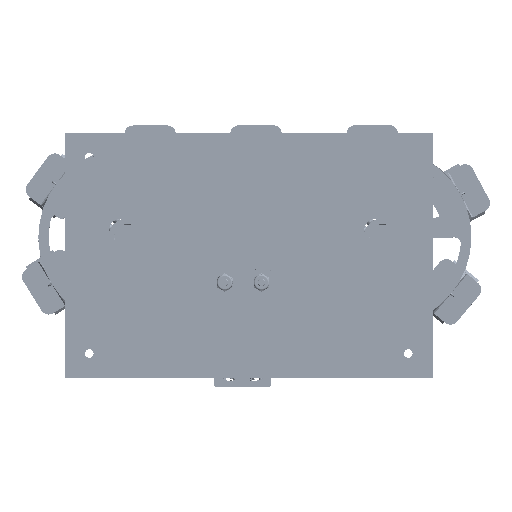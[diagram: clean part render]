
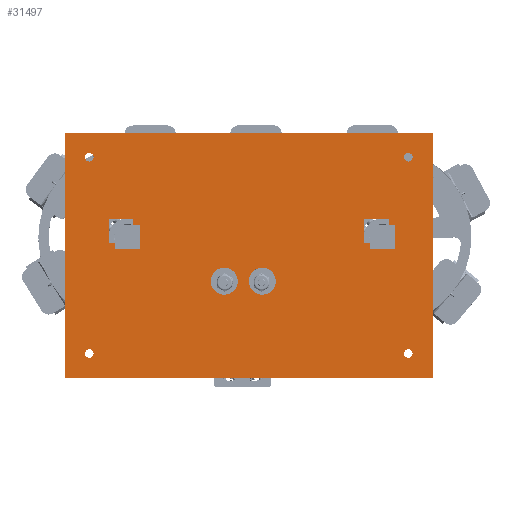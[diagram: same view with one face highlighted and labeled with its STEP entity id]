
A CAD part, top view. The second image highlights one B-rep face of the part: STEP entity #31497.
In plain terms, the highlighted planar face has unit normal (0, 0, 1).
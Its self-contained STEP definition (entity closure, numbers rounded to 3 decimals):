
#3368=FACE_BOUND('',#6053,.T.);
#3369=FACE_BOUND('',#6054,.T.);
#3370=FACE_BOUND('',#6055,.T.);
#3371=FACE_BOUND('',#6056,.T.);
#3372=FACE_BOUND('',#6057,.T.);
#3373=FACE_BOUND('',#6058,.T.);
#3374=FACE_BOUND('',#6059,.T.);
#3375=FACE_BOUND('',#6060,.T.);
#3631=PLANE('',#33622);
#4239=FACE_OUTER_BOUND('',#6052,.T.);
#6052=EDGE_LOOP('',(#21530,#21531,#21532,#21533));
#6053=EDGE_LOOP('',(#21534));
#6054=EDGE_LOOP('',(#21535));
#6055=EDGE_LOOP('',(#21536));
#6056=EDGE_LOOP('',(#21537));
#6057=EDGE_LOOP('',(#21538));
#6058=EDGE_LOOP('',(#21539));
#6059=EDGE_LOOP('',(#21540,#21541,#21542,#21543));
#6060=EDGE_LOOP('',(#21544,#21545,#21546,#21547));
#8061=LINE('',#41260,#10441);
#8064=LINE('',#41265,#10444);
#8066=LINE('',#41269,#10446);
#8068=LINE('',#41272,#10448);
#8069=LINE('',#41276,#10449);
#8072=LINE('',#41281,#10452);
#8074=LINE('',#41285,#10454);
#8076=LINE('',#41288,#10456);
#8077=LINE('',#41292,#10457);
#8081=LINE('',#41300,#10461);
#8084=LINE('',#41306,#10464);
#8087=LINE('',#41311,#10467);
#10441=VECTOR('',#35426,10.);
#10444=VECTOR('',#35431,10.);
#10446=VECTOR('',#35435,10.);
#10448=VECTOR('',#35439,10.);
#10449=VECTOR('',#35442,10.);
#10452=VECTOR('',#35447,10.);
#10454=VECTOR('',#35451,10.);
#10456=VECTOR('',#35455,10.);
#10457=VECTOR('',#35458,10.);
#10461=VECTOR('',#35464,10.);
#10464=VECTOR('',#35469,10.);
#10467=VECTOR('',#35474,10.);
#12804=CIRCLE('',#33584,11.);
#12806=CIRCLE('',#33587,11.);
#12809=CIRCLE('',#33592,3.5);
#12812=CIRCLE('',#33597,3.5);
#12815=CIRCLE('',#33602,3.5);
#12818=CIRCLE('',#33607,3.5);
#13333=VERTEX_POINT('',#41206);
#13335=VERTEX_POINT('',#41212);
#13338=VERTEX_POINT('',#41222);
#13341=VERTEX_POINT('',#41232);
#13344=VERTEX_POINT('',#41242);
#13347=VERTEX_POINT('',#41252);
#13348=VERTEX_POINT('',#41258);
#13349=VERTEX_POINT('',#41259);
#13350=VERTEX_POINT('',#41264);
#13351=VERTEX_POINT('',#41268);
#13352=VERTEX_POINT('',#41274);
#13353=VERTEX_POINT('',#41275);
#13354=VERTEX_POINT('',#41280);
#13355=VERTEX_POINT('',#41284);
#13356=VERTEX_POINT('',#41290);
#13357=VERTEX_POINT('',#41291);
#13360=VERTEX_POINT('',#41299);
#13362=VERTEX_POINT('',#41305);
#16576=EDGE_CURVE('',#13333,#13333,#12804,.T.);
#16579=EDGE_CURVE('',#13335,#13335,#12806,.T.);
#16584=EDGE_CURVE('',#13338,#13338,#12809,.T.);
#16589=EDGE_CURVE('',#13341,#13341,#12812,.T.);
#16594=EDGE_CURVE('',#13344,#13344,#12815,.T.);
#16599=EDGE_CURVE('',#13347,#13347,#12818,.T.);
#16600=EDGE_CURVE('',#13348,#13349,#8061,.T.);
#16603=EDGE_CURVE('',#13350,#13348,#8064,.T.);
#16605=EDGE_CURVE('',#13351,#13350,#8066,.T.);
#16607=EDGE_CURVE('',#13349,#13351,#8068,.T.);
#16608=EDGE_CURVE('',#13352,#13353,#8069,.T.);
#16611=EDGE_CURVE('',#13354,#13352,#8072,.T.);
#16613=EDGE_CURVE('',#13355,#13354,#8074,.T.);
#16615=EDGE_CURVE('',#13353,#13355,#8076,.T.);
#16616=EDGE_CURVE('',#13356,#13357,#8077,.T.);
#16620=EDGE_CURVE('',#13360,#13356,#8081,.T.);
#16623=EDGE_CURVE('',#13362,#13360,#8084,.T.);
#16626=EDGE_CURVE('',#13357,#13362,#8087,.T.);
#21530=ORIENTED_EDGE('',*,*,#16626,.F.);
#21531=ORIENTED_EDGE('',*,*,#16616,.F.);
#21532=ORIENTED_EDGE('',*,*,#16620,.F.);
#21533=ORIENTED_EDGE('',*,*,#16623,.F.);
#21534=ORIENTED_EDGE('',*,*,#16576,.T.);
#21535=ORIENTED_EDGE('',*,*,#16579,.T.);
#21536=ORIENTED_EDGE('',*,*,#16584,.T.);
#21537=ORIENTED_EDGE('',*,*,#16589,.T.);
#21538=ORIENTED_EDGE('',*,*,#16594,.T.);
#21539=ORIENTED_EDGE('',*,*,#16599,.T.);
#21540=ORIENTED_EDGE('',*,*,#16600,.T.);
#21541=ORIENTED_EDGE('',*,*,#16607,.T.);
#21542=ORIENTED_EDGE('',*,*,#16605,.T.);
#21543=ORIENTED_EDGE('',*,*,#16603,.T.);
#21544=ORIENTED_EDGE('',*,*,#16608,.T.);
#21545=ORIENTED_EDGE('',*,*,#16615,.T.);
#21546=ORIENTED_EDGE('',*,*,#16613,.T.);
#21547=ORIENTED_EDGE('',*,*,#16611,.T.);
#31497=ADVANCED_FACE('',(#4239,#3368,#3369,#3370,#3371,#3372,#3373,#3374,
#3375),#3631,.T.);
#33584=AXIS2_PLACEMENT_3D('',#41208,#35363,#35364);
#33587=AXIS2_PLACEMENT_3D('',#41214,#35370,#35371);
#33592=AXIS2_PLACEMENT_3D('',#41224,#35382,#35383);
#33597=AXIS2_PLACEMENT_3D('',#41234,#35394,#35395);
#33602=AXIS2_PLACEMENT_3D('',#41244,#35406,#35407);
#33607=AXIS2_PLACEMENT_3D('',#41254,#35418,#35419);
#33622=AXIS2_PLACEMENT_3D('',#41313,#35476,#35477);
#35363=DIRECTION('center_axis',(0.,0.,-1.));
#35364=DIRECTION('ref_axis',(-1.,0.,0.));
#35370=DIRECTION('center_axis',(0.,0.,-1.));
#35371=DIRECTION('ref_axis',(-1.,0.,0.));
#35382=DIRECTION('center_axis',(0.,0.,-1.));
#35383=DIRECTION('ref_axis',(-1.,0.,0.));
#35394=DIRECTION('center_axis',(0.,0.,-1.));
#35395=DIRECTION('ref_axis',(-1.,0.,0.));
#35406=DIRECTION('center_axis',(0.,0.,-1.));
#35407=DIRECTION('ref_axis',(-1.,0.,0.));
#35418=DIRECTION('center_axis',(0.,0.,-1.));
#35419=DIRECTION('ref_axis',(-1.,0.,0.));
#35426=DIRECTION('',(1.,0.,0.));
#35431=DIRECTION('',(0.,1.,0.));
#35435=DIRECTION('',(-1.,0.,0.));
#35439=DIRECTION('',(0.,-1.,0.));
#35442=DIRECTION('',(0.,1.,0.));
#35447=DIRECTION('',(-1.,0.,0.));
#35451=DIRECTION('',(0.,-1.,0.));
#35455=DIRECTION('',(1.,0.,0.));
#35458=DIRECTION('',(0.,-1.,0.));
#35464=DIRECTION('',(1.,0.,0.));
#35469=DIRECTION('',(0.,1.,0.));
#35474=DIRECTION('',(-1.,0.,0.));
#35476=DIRECTION('center_axis',(0.,0.,1.));
#35477=DIRECTION('ref_axis',(1.,0.,0.));
#41206=CARTESIAN_POINT('',(-9.,-41.,0.));
#41208=CARTESIAN_POINT('Origin',(-20.,-41.,0.));
#41212=CARTESIAN_POINT('',(22.,-41.,0.));
#41214=CARTESIAN_POINT('Origin',(11.,-41.,0.));
#41222=CARTESIAN_POINT('',(133.5,60.,0.));
#41224=CARTESIAN_POINT('Origin',(130.,60.,0.));
#41232=CARTESIAN_POINT('',(-126.5,-100.,0.));
#41234=CARTESIAN_POINT('Origin',(-130.,-100.,0.));
#41242=CARTESIAN_POINT('',(133.5,-100.,0.));
#41244=CARTESIAN_POINT('Origin',(130.,-100.,0.));
#41252=CARTESIAN_POINT('',(-126.5,60.,0.));
#41254=CARTESIAN_POINT('Origin',(-130.,60.,0.));
#41258=CARTESIAN_POINT('',(-114.,10.,0.));
#41259=CARTESIAN_POINT('',(-94.,10.,0.));
#41260=CARTESIAN_POINT('',(-57.,10.,0.));
#41264=CARTESIAN_POINT('',(-114.,-10.,0.));
#41265=CARTESIAN_POINT('',(-114.,-15.,0.));
#41268=CARTESIAN_POINT('',(-94.,-10.,0.));
#41269=CARTESIAN_POINT('',(-47.,-10.,0.));
#41272=CARTESIAN_POINT('',(-94.,-5.,0.));
#41274=CARTESIAN_POINT('',(94.,-10.,0.));
#41275=CARTESIAN_POINT('',(94.,10.,0.));
#41276=CARTESIAN_POINT('',(94.,-15.,0.));
#41280=CARTESIAN_POINT('',(114.,-10.,0.));
#41281=CARTESIAN_POINT('',(57.,-10.,0.));
#41284=CARTESIAN_POINT('',(114.,10.,0.));
#41285=CARTESIAN_POINT('',(114.,-5.,0.));
#41288=CARTESIAN_POINT('',(47.,10.,0.));
#41290=CARTESIAN_POINT('',(150.,80.,0.));
#41291=CARTESIAN_POINT('',(150.,-120.,0.));
#41292=CARTESIAN_POINT('',(150.,80.,0.));
#41299=CARTESIAN_POINT('',(-150.,80.,0.));
#41300=CARTESIAN_POINT('',(-150.,80.,0.));
#41305=CARTESIAN_POINT('',(-150.,-120.,0.));
#41306=CARTESIAN_POINT('',(-150.,-120.,0.));
#41311=CARTESIAN_POINT('',(150.,-120.,0.));
#41313=CARTESIAN_POINT('Origin',(0.,-20.,0.));
